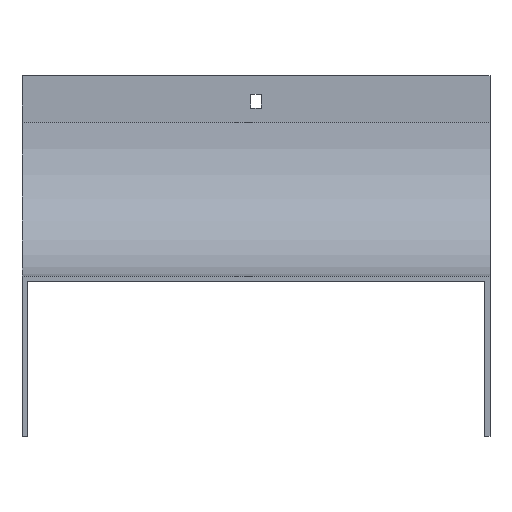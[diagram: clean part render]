
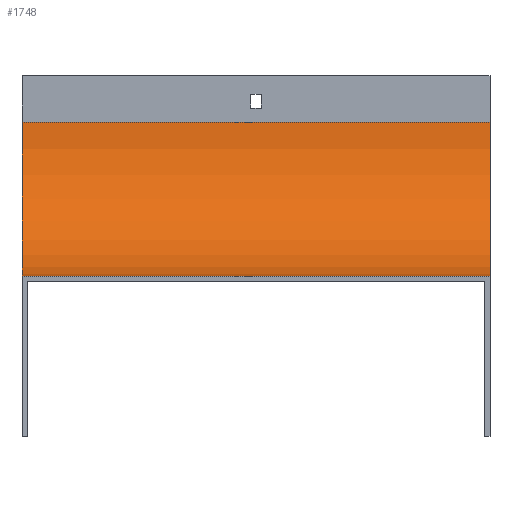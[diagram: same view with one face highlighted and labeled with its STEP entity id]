
A CAD part, front view. The second image highlights one B-rep face of the part: STEP entity #1748.
In plain terms, the highlighted cylindrical face has radius 100 mm (diameter 200 mm), a partial arc.
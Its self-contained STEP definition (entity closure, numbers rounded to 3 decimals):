
#11 = VERTEX_POINT ( 'NONE', #891 ) ;
#13 = ORIENTED_EDGE ( 'NONE', *, *, #1722, .T. ) ;
#51 = ORIENTED_EDGE ( 'NONE', *, *, #1033, .T. ) ;
#68 = DIRECTION ( 'NONE',  ( 0., 0., 1. ) ) ;
#70 = AXIS2_PLACEMENT_3D ( 'NONE', #202, #1107, #68 ) ;
#80 = EDGE_CURVE ( 'NONE', #11, #344, #485, .T. ) ;
#88 = ORIENTED_EDGE ( 'NONE', *, *, #80, .F. ) ;
#202 = CARTESIAN_POINT ( 'NONE',  ( -152., -100., -30. ) ) ;
#268 = LINE ( 'NONE', #892, #1183 ) ;
#344 = VERTEX_POINT ( 'NONE', #1110 ) ;
#352 = DIRECTION ( 'NONE',  ( -1., 0., 0. ) ) ;
#410 = VECTOR ( 'NONE', #1461, 1000. ) ;
#469 = CARTESIAN_POINT ( 'NONE',  ( 152., 0., -30. ) ) ;
#485 = CIRCLE ( 'NONE', #728, 100. ) ;
#520 = CIRCLE ( 'NONE', #70, 100. ) ;
#551 = VERTEX_POINT ( 'NONE', #1891 ) ;
#650 = VERTEX_POINT ( 'NONE', #895 ) ;
#728 = AXIS2_PLACEMENT_3D ( 'NONE', #1386, #927, #809 ) ;
#751 = LINE ( 'NONE', #469, #410 ) ;
#809 = DIRECTION ( 'NONE',  ( 0., 0., 1. ) ) ;
#891 = CARTESIAN_POINT ( 'NONE',  ( 152., 0., -30. ) ) ;
#892 = CARTESIAN_POINT ( 'NONE',  ( 152., -100., -130. ) ) ;
#895 = CARTESIAN_POINT ( 'NONE',  ( -152., -100., -130. ) ) ;
#927 = DIRECTION ( 'NONE',  ( -1., 0., 0. ) ) ;
#1027 = DIRECTION ( 'NONE',  ( -1., 0., 0. ) ) ;
#1033 = EDGE_CURVE ( 'NONE', #551, #650, #520, .T. ) ;
#1052 = CYLINDRICAL_SURFACE ( 'NONE', #1621, 100. ) ;
#1080 = CARTESIAN_POINT ( 'NONE',  ( 152., -100., -30. ) ) ;
#1096 = ORIENTED_EDGE ( 'NONE', *, *, #1558, .F. ) ;
#1107 = DIRECTION ( 'NONE',  ( -1., 0., 0. ) ) ;
#1110 = CARTESIAN_POINT ( 'NONE',  ( 152., -100., -130. ) ) ;
#1183 = VECTOR ( 'NONE', #1027, 1000. ) ;
#1337 = EDGE_LOOP ( 'NONE', ( #51, #1096, #88, #13 ) ) ;
#1386 = CARTESIAN_POINT ( 'NONE',  ( 152., -100., -30. ) ) ;
#1387 = FACE_OUTER_BOUND ( 'NONE', #1337, .T. ) ;
#1461 = DIRECTION ( 'NONE',  ( -1., 0., 0. ) ) ;
#1558 = EDGE_CURVE ( 'NONE', #344, #650, #268, .T. ) ;
#1621 = AXIS2_PLACEMENT_3D ( 'NONE', #1080, #352, #1806 ) ;
#1722 = EDGE_CURVE ( 'NONE', #11, #551, #751, .T. ) ;
#1748 = ADVANCED_FACE ( 'NONE', ( #1387 ), #1052, .F. ) ;
#1806 = DIRECTION ( 'NONE',  ( 0., 0., 1. ) ) ;
#1891 = CARTESIAN_POINT ( 'NONE',  ( -152., 0., -30. ) ) ;
